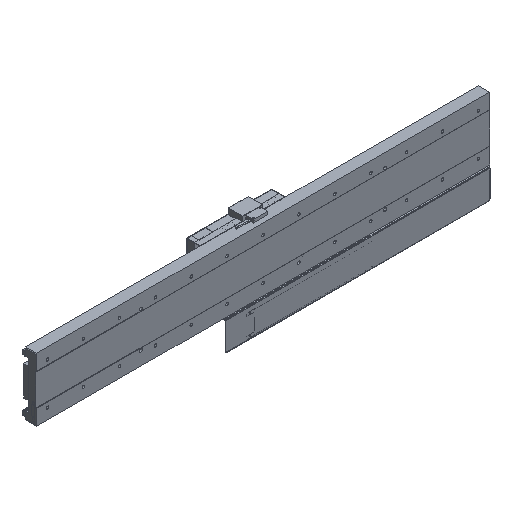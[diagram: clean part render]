
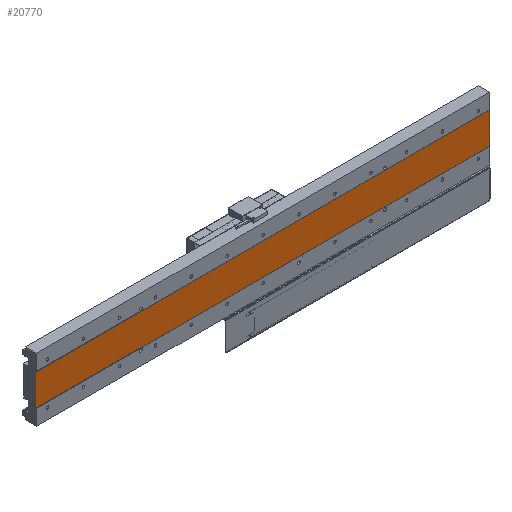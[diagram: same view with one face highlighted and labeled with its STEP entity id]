
A CAD part, isometric view. The second image highlights one B-rep face of the part: STEP entity #20770.
In plain terms, the highlighted planar face has unit normal (0, -1, 0).
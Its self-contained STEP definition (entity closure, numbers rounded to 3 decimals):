
#2233 = ORIENTED_EDGE ( 'NONE', *, *, #42077, .T. ) ;
#2882 = EDGE_CURVE ( 'NONE', #36463, #15699, #29191, .T. ) ;
#2994 = DIRECTION ( 'NONE',  ( 1., 0., 0. ) ) ;
#4681 = CARTESIAN_POINT ( 'NONE',  ( -790., 1., -55. ) ) ;
#5514 = LINE ( 'NONE', #29545, #10450 ) ;
#5854 = DIRECTION ( 'NONE',  ( 0., 1., 0. ) ) ;
#5884 = VECTOR ( 'NONE', #25120, 1000. ) ;
#6667 = CARTESIAN_POINT ( 'NONE',  ( 790., 1., -55. ) ) ;
#9024 = VERTEX_POINT ( 'NONE', #4681 ) ;
#10450 = VECTOR ( 'NONE', #37749, 1000. ) ;
#10671 = CARTESIAN_POINT ( 'NONE',  ( 790., 1., 55. ) ) ;
#10697 = CARTESIAN_POINT ( 'NONE',  ( -790., 1., 55. ) ) ;
#12742 = VECTOR ( 'NONE', #18709, 1000. ) ;
#15699 = VERTEX_POINT ( 'NONE', #10671 ) ;
#16854 = PLANE ( 'NONE',  #18768 ) ;
#17354 = CARTESIAN_POINT ( 'NONE',  ( -790., 1., 55. ) ) ;
#18709 = DIRECTION ( 'NONE',  ( 0., 0., 1. ) ) ;
#18768 = AXIS2_PLACEMENT_3D ( 'NONE', #48538, #5854, #48711 ) ;
#20624 = LINE ( 'NONE', #17354, #5884 ) ;
#20770 = ADVANCED_FACE ( 'NONE', ( #35171 ), #16854, .F. ) ;
#23793 = LINE ( 'NONE', #42205, #12742 ) ;
#25120 = DIRECTION ( 'NONE',  ( 0., 0., 1. ) ) ;
#29191 = LINE ( 'NONE', #10697, #36490 ) ;
#29241 = ORIENTED_EDGE ( 'NONE', *, *, #49944, .F. ) ;
#29545 = CARTESIAN_POINT ( 'NONE',  ( -790., 1., -55. ) ) ;
#32013 = ORIENTED_EDGE ( 'NONE', *, *, #2882, .F. ) ;
#35171 = FACE_OUTER_BOUND ( 'NONE', #48758, .T. ) ;
#35427 = CARTESIAN_POINT ( 'NONE',  ( -790., 1., 55. ) ) ;
#35804 = VERTEX_POINT ( 'NONE', #6667 ) ;
#36463 = VERTEX_POINT ( 'NONE', #35427 ) ;
#36490 = VECTOR ( 'NONE', #2994, 1000. ) ;
#37749 = DIRECTION ( 'NONE',  ( 1., 0., 0. ) ) ;
#40128 = EDGE_CURVE ( 'NONE', #35804, #15699, #23793, .T. ) ;
#42077 = EDGE_CURVE ( 'NONE', #9024, #35804, #5514, .T. ) ;
#42205 = CARTESIAN_POINT ( 'NONE',  ( 790., 1., 55. ) ) ;
#42690 = ORIENTED_EDGE ( 'NONE', *, *, #40128, .T. ) ;
#48538 = CARTESIAN_POINT ( 'NONE',  ( -790., 1., 55. ) ) ;
#48711 = DIRECTION ( 'NONE',  ( 0., 0., 1. ) ) ;
#48758 = EDGE_LOOP ( 'NONE', ( #42690, #32013, #29241, #2233 ) ) ;
#49944 = EDGE_CURVE ( 'NONE', #9024, #36463, #20624, .T. ) ;
